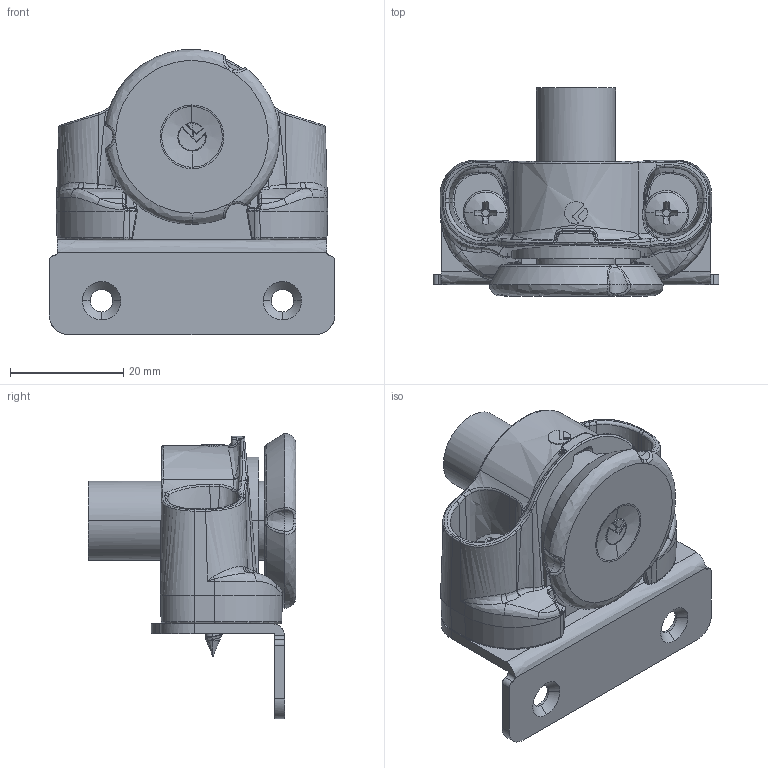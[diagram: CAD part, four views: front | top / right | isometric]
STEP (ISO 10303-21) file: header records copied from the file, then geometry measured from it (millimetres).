
FILE_DESCRIPTION (( 'STEP AP203' ), '1' );
FILE_NAME ('Integrato tech A rektifikácia 20mm na skrutku_497603.STEP', '2023-02-01T09:38:47', ( '' ), ( '' ), 'SwSTEP 2.0', 'SolidWorks 2019', '' );
FILE_SCHEMA (( 'CONFIG_CONTROL_DESIGN' ));
Length unit declared in the file: millimetre
Products named in the file (1): Integrato tech A rektifikácia 20mm na skrutku_497603
Bounding box: 50.6 x 36.8 x 50.48 mm (x, y, z)
Surface area: 14250.4 mm2 (no closed solid volume)
Topology: 0 solids, 1 shells, 1011 faces, 2470 edges, 1459 vertices
Faces by surface type: bspline 1011
Entity records: 48388 total; most frequent: CARTESIAN_POINT 34365, ORIENTED_EDGE 4924, EDGE_CURVE 2463, B_SPLINE_CURVE_WITH_KNOTS 1748, VERTEX_POINT 1459, EDGE_LOOP 1031, ADVANCED_FACE 1011, FACE_OUTER_BOUND 1011
